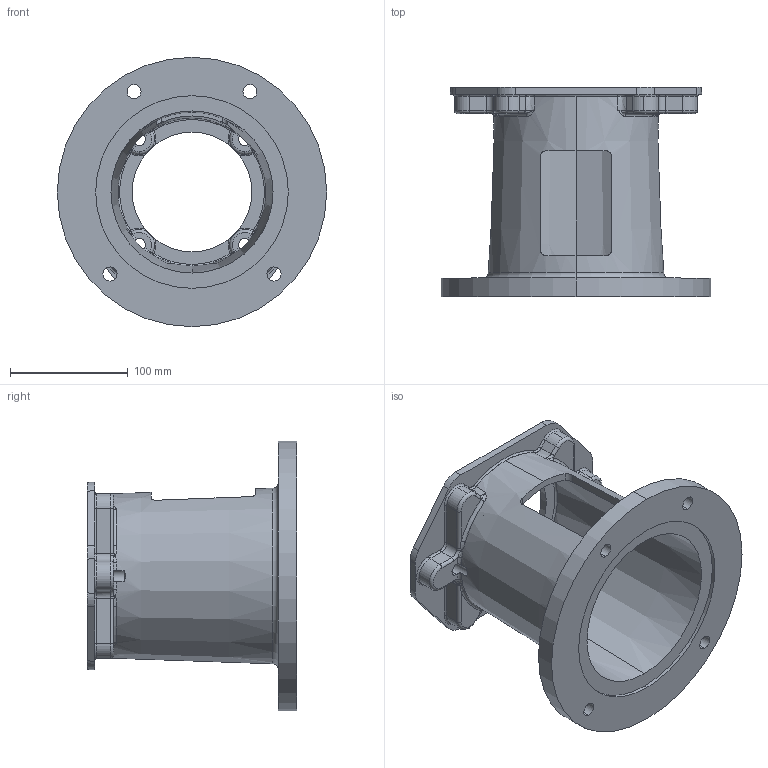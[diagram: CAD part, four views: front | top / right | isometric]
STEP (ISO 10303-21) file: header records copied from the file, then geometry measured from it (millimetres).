
FILE_DESCRIPTION (( 'STEP AP203' ), '1' );
FILE_NAME ('E644702B.STEP', '2014-11-03T18:53:20', ( '' ), ( '' ), 'SwSTEP 2.0', 'SolidWorks 2014', '' );
FILE_SCHEMA (( 'CONFIG_CONTROL_DESIGN' ));
Length unit declared in the file: inch
Products named in the file (1): E644702B
Bounding box: 228.6 x 177.8 x 228.6 mm (x, y, z)
Volume: 987653.9 mm3; surface area: 244266.3 mm2
Topology: 1 solids, 1 shells, 304 faces, 800 edges, 473 vertices
Faces by surface type: torus 91, cylinder 74, bspline 60, plane 43, cone 20, sphere 16
Entity records: 12011 total; most frequent: CARTESIAN_POINT 4850, ORIENTED_EDGE 1560, DIRECTION 1490, EDGE_CURVE 780, AXIS2_PLACEMENT_3D 673, VERTEX_POINT 473, CIRCLE 428, EDGE_LOOP 323
